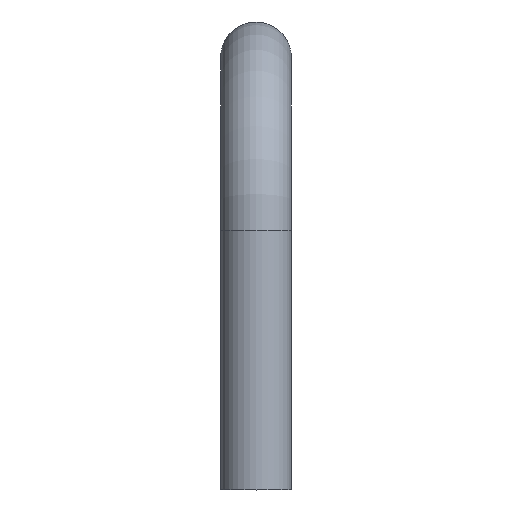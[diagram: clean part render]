
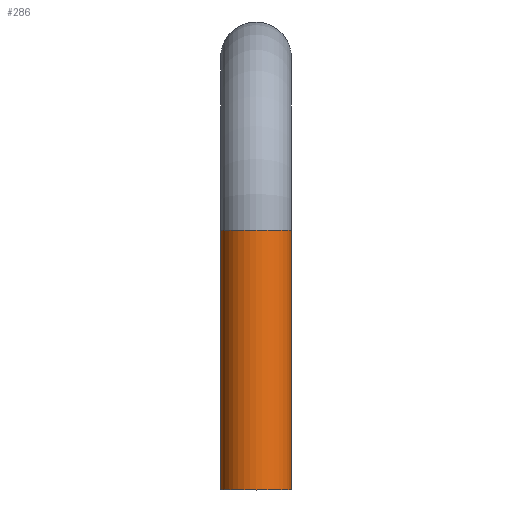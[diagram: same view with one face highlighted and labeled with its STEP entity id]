
A CAD part, left-side view. The second image highlights one B-rep face of the part: STEP entity #286.
In plain terms, the highlighted cylindrical face has radius 0.409 mm (diameter 0.818 mm), a full revolution.
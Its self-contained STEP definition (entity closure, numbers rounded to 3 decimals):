
#217 = TOROIDAL_SURFACE('',#218,2.,0.409);
#218 = AXIS2_PLACEMENT_3D('',#219,#220,#221);
#219 = CARTESIAN_POINT('',(2.,0.,0.));
#220 = DIRECTION('',(0.,-1.,0.));
#221 = DIRECTION('',(1.,0.,0.));
#235 = VERTEX_POINT('',#236);
#236 = CARTESIAN_POINT('',(0.409,0.,0.));
#258 = EDGE_CURVE('',#235,#235,#259,.T.);
#259 = SURFACE_CURVE('',#260,(#265,#272),.PCURVE_S1.);
#260 = CIRCLE('',#261,0.409);
#261 = AXIS2_PLACEMENT_3D('',#262,#263,#264);
#262 = CARTESIAN_POINT('',(0.,0.,0.));
#263 = DIRECTION('',(0.,0.,1.));
#264 = DIRECTION('',(-1.,0.,0.));
#265 = PCURVE('',#217,#266);
#266 = DEFINITIONAL_REPRESENTATION('',(#267),#271);
#267 = LINE('',#268,#269);
#268 = CARTESIAN_POINT('',(3.142,0.));
#269 = VECTOR('',#270,1.);
#270 = DIRECTION('',(0.,1.));
#271 = ( GEOMETRIC_REPRESENTATION_CONTEXT(2) 
PARAMETRIC_REPRESENTATION_CONTEXT() REPRESENTATION_CONTEXT('2D SPACE',''
  ) );
#272 = PCURVE('',#273,#278);
#273 = CYLINDRICAL_SURFACE('',#274,0.409);
#274 = AXIS2_PLACEMENT_3D('',#275,#276,#277);
#275 = CARTESIAN_POINT('',(0.,0.,0.));
#276 = DIRECTION('',(0.,0.,-1.));
#277 = DIRECTION('',(1.,0.,0.));
#278 = DEFINITIONAL_REPRESENTATION('',(#279),#283);
#279 = LINE('',#280,#281);
#280 = CARTESIAN_POINT('',(9.425,0.));
#281 = VECTOR('',#282,1.);
#282 = DIRECTION('',(-1.,-0.));
#283 = ( GEOMETRIC_REPRESENTATION_CONTEXT(2) 
PARAMETRIC_REPRESENTATION_CONTEXT() REPRESENTATION_CONTEXT('2D SPACE',''
  ) );
#286 = ADVANCED_FACE('',(#287),#273,.T.);
#287 = FACE_BOUND('',#288,.T.);
#288 = EDGE_LOOP('',(#289,#312,#339,#340));
#289 = ORIENTED_EDGE('',*,*,#290,.T.);
#290 = EDGE_CURVE('',#235,#291,#293,.T.);
#291 = VERTEX_POINT('',#292);
#292 = CARTESIAN_POINT('',(0.409,0.,-3.));
#293 = SEAM_CURVE('',#294,(#298,#305),.PCURVE_S1.);
#294 = LINE('',#295,#296);
#295 = CARTESIAN_POINT('',(0.409,0.,0.));
#296 = VECTOR('',#297,1.);
#297 = DIRECTION('',(0.,0.,-1.));
#298 = PCURVE('',#273,#299);
#299 = DEFINITIONAL_REPRESENTATION('',(#300),#304);
#300 = LINE('',#301,#302);
#301 = CARTESIAN_POINT('',(6.283,0.));
#302 = VECTOR('',#303,1.);
#303 = DIRECTION('',(0.,1.));
#304 = ( GEOMETRIC_REPRESENTATION_CONTEXT(2) 
PARAMETRIC_REPRESENTATION_CONTEXT() REPRESENTATION_CONTEXT('2D SPACE',''
  ) );
#305 = PCURVE('',#273,#306);
#306 = DEFINITIONAL_REPRESENTATION('',(#307),#311);
#307 = LINE('',#308,#309);
#308 = CARTESIAN_POINT('',(0.,0.));
#309 = VECTOR('',#310,1.);
#310 = DIRECTION('',(0.,1.));
#311 = ( GEOMETRIC_REPRESENTATION_CONTEXT(2) 
PARAMETRIC_REPRESENTATION_CONTEXT() REPRESENTATION_CONTEXT('2D SPACE',''
  ) );
#312 = ORIENTED_EDGE('',*,*,#313,.T.);
#313 = EDGE_CURVE('',#291,#291,#314,.T.);
#314 = SURFACE_CURVE('',#315,(#320,#327),.PCURVE_S1.);
#315 = CIRCLE('',#316,0.409);
#316 = AXIS2_PLACEMENT_3D('',#317,#318,#319);
#317 = CARTESIAN_POINT('',(0.,0.,-3.));
#318 = DIRECTION('',(0.,0.,1.));
#319 = DIRECTION('',(1.,0.,0.));
#320 = PCURVE('',#273,#321);
#321 = DEFINITIONAL_REPRESENTATION('',(#322),#326);
#322 = LINE('',#323,#324);
#323 = CARTESIAN_POINT('',(6.283,3.));
#324 = VECTOR('',#325,1.);
#325 = DIRECTION('',(-1.,-0.));
#326 = ( GEOMETRIC_REPRESENTATION_CONTEXT(2) 
PARAMETRIC_REPRESENTATION_CONTEXT() REPRESENTATION_CONTEXT('2D SPACE',''
  ) );
#327 = PCURVE('',#328,#333);
#328 = PLANE('',#329);
#329 = AXIS2_PLACEMENT_3D('',#330,#331,#332);
#330 = CARTESIAN_POINT('',(0.,0.,-3.));
#331 = DIRECTION('',(0.,0.,1.));
#332 = DIRECTION('',(1.,0.,0.));
#333 = DEFINITIONAL_REPRESENTATION('',(#334),#338);
#334 = CIRCLE('',#335,0.409);
#335 = AXIS2_PLACEMENT_2D('',#336,#337);
#336 = CARTESIAN_POINT('',(0.,0.));
#337 = DIRECTION('',(1.,0.));
#338 = ( GEOMETRIC_REPRESENTATION_CONTEXT(2) 
PARAMETRIC_REPRESENTATION_CONTEXT() REPRESENTATION_CONTEXT('2D SPACE',''
  ) );
#339 = ORIENTED_EDGE('',*,*,#290,.F.);
#340 = ORIENTED_EDGE('',*,*,#258,.F.);
